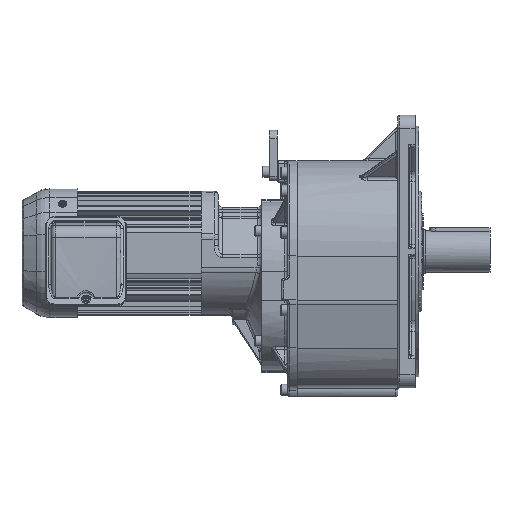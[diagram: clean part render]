
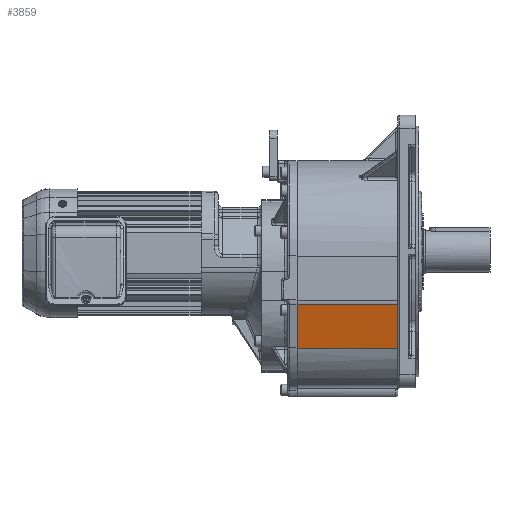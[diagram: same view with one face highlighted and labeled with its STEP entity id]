
A CAD part, front view. The second image highlights one B-rep face of the part: STEP entity #3859.
In plain terms, the highlighted planar face has unit normal (0, -0.966, -0.259).
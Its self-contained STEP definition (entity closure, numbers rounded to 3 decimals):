
#3859 = ADVANCED_FACE( '', ( #9448 ), #9449, .F. );
#9448 = FACE_OUTER_BOUND( '', #21275, .T. );
#9449 = PLANE( '', #21276 );
#21275 = EDGE_LOOP( '', ( #44780, #44781, #44782, #44783 ) );
#21276 = AXIS2_PLACEMENT_3D( '', #44784, #44785, #44786 );
#44780 = ORIENTED_EDGE( '', *, *, #61655, .T. );
#44781 = ORIENTED_EDGE( '', *, *, #61656, .F. );
#44782 = ORIENTED_EDGE( '', *, *, #61229, .F. );
#44783 = ORIENTED_EDGE( '', *, *, #59765, .T. );
#44784 = CARTESIAN_POINT( '', ( 31.847, -299.252, -56.196 ) );
#44785 = DIRECTION( '', ( 0., 0.966, 0.259 ) );
#44786 = DIRECTION( '', ( 0., -0.259, 0.966 ) );
#59765 = EDGE_CURVE( '', #68476, #68477, #68478, .T. );
#61229 = EDGE_CURVE( '', #68476, #70830, #70831, .T. );
#61655 = EDGE_CURVE( '', #68477, #71501, #71502, .T. );
#61656 = EDGE_CURVE( '', #70830, #71501, #71503, .T. );
#68476 = VERTEX_POINT( '', #82403 );
#68477 = VERTEX_POINT( '', #82404 );
#68478 = LINE( '', #82405, #82406 );
#70830 = VERTEX_POINT( '', #87169 );
#70831 = LINE( '', #87170, #87171 );
#71501 = VERTEX_POINT( '', #88369 );
#71502 = LINE( '', #88370, #88371 );
#71503 = LINE( '', #88372, #88373 );
#82403 = CARTESIAN_POINT( '', ( 31.847, -285.863, -106.164 ) );
#82404 = CARTESIAN_POINT( '', ( 147.847, -285.863, -106.164 ) );
#82405 = CARTESIAN_POINT( '', ( 31.847, -285.863, -106.164 ) );
#82406 = VECTOR( '', #101514, 1000. );
#87169 = CARTESIAN_POINT( '', ( 31.847, -299.252, -56.196 ) );
#87170 = CARTESIAN_POINT( '', ( 31.847, -299.252, -56.196 ) );
#87171 = VECTOR( '', #103673, 1000. );
#88369 = CARTESIAN_POINT( '', ( 147.847, -299.252, -56.196 ) );
#88370 = CARTESIAN_POINT( '', ( 147.847, -299.252, -56.196 ) );
#88371 = VECTOR( '', #104288, 1000. );
#88372 = CARTESIAN_POINT( '', ( 31.847, -299.252, -56.196 ) );
#88373 = VECTOR( '', #104289, 1000. );
#101514 = DIRECTION( '', ( 1., 0., 0. ) );
#103673 = DIRECTION( '', ( 0., -0.259, 0.966 ) );
#104288 = DIRECTION( '', ( 0., -0.259, 0.966 ) );
#104289 = DIRECTION( '', ( 1., 0., 0. ) );
